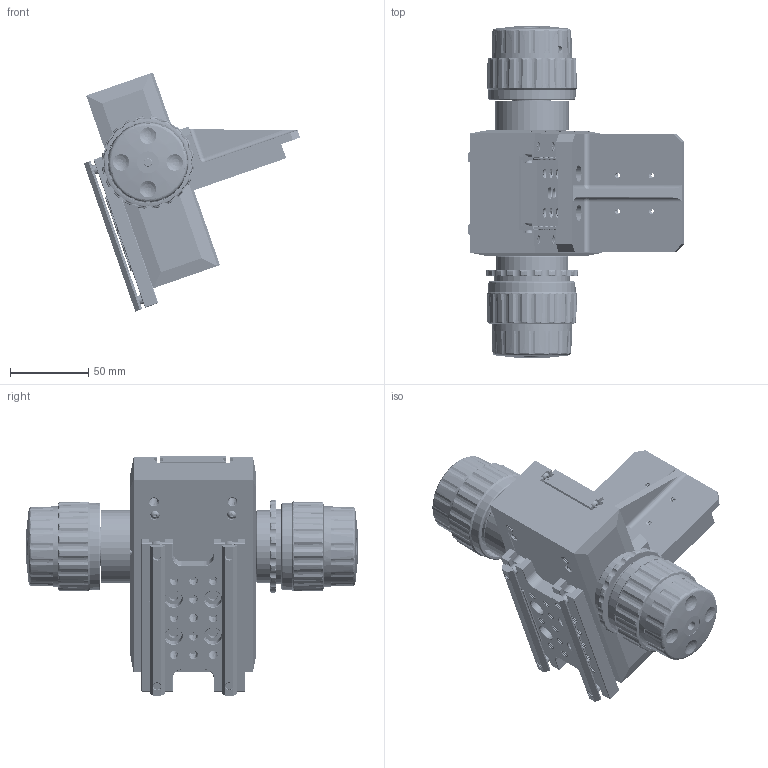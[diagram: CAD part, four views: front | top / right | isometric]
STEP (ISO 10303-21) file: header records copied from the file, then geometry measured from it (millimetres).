
FILE_DESCRIPTION((''),'2;1');
FILE_NAME('OPH95-LMP3_ASM','2026-07-24T16:13:49',('R&D'),(''),'CREO PARAMETRIC BY PTC INC, 2021063','CREO PARAMETRIC BY PTC INC, 2021063','');
FILE_SCHEMA(('CONFIG_CONTROL_DESIGN'));
Products named in the file (53): MCT-LMP2-A2; MCT-LMP2-A4; MCT-LMP2-A5; MCT-LMP2-A6; MCT-LMP2-A7; ISO14579-M3X8-8_8; MCT-LMP2-A9; MCT-LMP2-B1; ISO2009-M1_6X5-4_8; MCT-LMP2-B2; ISO7380-1-M3X6-8_8; MCT-LMP2-B4; MCT-LMP2-B5; MCT-LMP2-B6; MCT-LMP2-B7; MCT-LMP2-B8; MCT-LMP2-B3_ASM; MCT-LMP2-B9; MCT-LMP2-C1; MCT-LMP2-C4; MCT-LMP2-C5; MCT-LMP2-C6; MCT-LMP2-C7; MCT-LMP2-C8; MCT-LMP2-C9; MCT-LMP2-D1; MCT-LMP2-D2; MCT-LMP2-A8_ASM; MCT-LMP2-D5; MCT-LMP2-D3; MCT-LMP2-D4_ASM; ISO14579-M3X6-8_8; MCT-LMP2-D6; MCT-LMP2-D7; MCT-LMP2-A1_ASM; MCT-LMP2-D9; MCT-LMP2-E1; ISO14579-M3X10-8_8; MCT-LMP2-E2; MCT-LMP2-E3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
Assembly tree (113 placements, depth 5):
  OPH95-LMP3_ASM
    MCT-LMP2-A1_ASM
      MCT-LMP2-A2
      MCT-LMP2-A4
      MCT-LMP2-A5
      MCT-LMP2-A6
      MCT-LMP2-A7
      ISO14579-M3X8-8_8  x3
      MCT-LMP2-A8_ASM
        MCT-LMP2-A9
        MCT-LMP2-B1
        ISO2009-M1_6X5-4_8  x3
        MCT-LMP2-B2
        ISO7380-1-M3X6-8_8  x6
        MCT-LMP2-B3_ASM
          MCT-LMP2-B4
          MCT-LMP2-B5  x3
          MCT-LMP2-B6
          MCT-LMP2-B7
          MCT-LMP2-B8
        MCT-LMP2-B9
        MCT-LMP2-C1
        MCT-LMP2-C4
        MCT-LMP2-C5
        MCT-LMP2-C6
        MCT-LMP2-C7
        MCT-LMP2-C8
        MCT-LMP2-C9
        MCT-LMP2-D1
        MCT-LMP2-D2
        MCT-LMP2-A5
      MCT-LMP2-D4_ASM  x2
        MCT-LMP2-D5
        MCT-LMP2-D3
      ISO14579-M3X6-8_8  x2
      MCT-LMP2-D6
      MCT-LMP2-D7
    MCT-LMP2-D8_ASM
      MCT-LMP2-D9
      MCT-LMP2-E1  x2
      ISO14579-M3X10-8_8  x10
      ISO7380-1-M3X6-8_8  x12
      MCT-LMP2-E2  x8
      MCT-LMP2-E3
      MCT-LMP2-E4
      MCT-LMP2-E5
      MCT-LMP2-E6_ASM  x2
        MCT-LMP2-E7
        MCT-LMP2-E8
        MCT-LMP2-E9
    ISO14579-M3X8-8_8  x5
    OOP95-MB_ASM
      OOP95-MB-A1
      OOP95-MB-A2  x2
      ISO14579-M6X10-8_8  x4
    LMP2-A
Bounding box: 137.9 x 211.53 x 152.39 mm (x, y, z)
Volume: 588271.2 mm3; surface area: 292043.6 mm2
Topology: 113 solids, 113 shells, 8898 faces, 24250 edges, 15664 vertices
Faces by surface type: cylinder 3854, cone 1399, bspline 1309, plane 1152, extrusion 858, torus 210, sphere 116
Entity records: 455155 total; most frequent: CARTESIAN_POINT 293612, ORIENTED_EDGE 38142, DIRECTION 25902, EDGE_CURVE 19071, VERTEX_POINT 12370, AXIS2_PLACEMENT_3D 9383, B_SPLINE_CURVE_WITH_KNOTS 9157, EDGE_LOOP 7413
